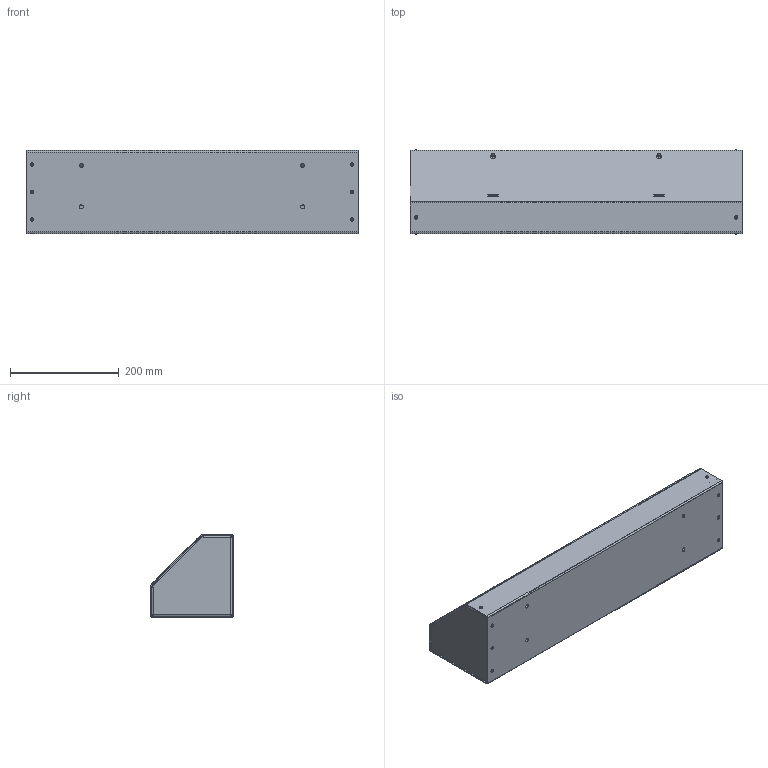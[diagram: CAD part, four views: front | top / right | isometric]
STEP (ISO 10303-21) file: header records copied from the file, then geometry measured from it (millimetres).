
FILE_DESCRIPTION (( 'STEP AP203' ), '1' );
FILE_NAME ('at6624.STEP', '2017-10-03T18:31:57', ( '' ), ( '' ), 'SwSTEP 2.0', 'SolidWorks 2014', '' );
FILE_SCHEMA (( 'CONFIG_CONTROL_DESIGN' ));
Length unit declared in the file: inch
Products named in the file (7): at6624; 89159103; 89159121; 16111002_INSTALLED .144 THICKNESS; 89159146; 89159126; 87780048
Assembly tree (22 placements, depth 3):
  at6624
    89159146
      89159103
      89159121  x2
      16111002_INSTALLED .144 THICKNESS  x16
    89159126
    87780048
Bounding box: 609.6 x 154.23 x 154.23 mm (x, y, z)
Volume: 566671.9 mm3; surface area: 828484.6 mm2
Topology: 21 solids, 21 shells, 724 faces, 1660 edges, 992 vertices
Faces by surface type: cylinder 284, plane 256, cone 96, bspline 80, torus 8
Entity records: 11797 total; most frequent: CARTESIAN_POINT 2260, DIRECTION 1786, ORIENTED_EDGE 1698, EDGE_CURVE 849, AXIS2_PLACEMENT_3D 627, VECTOR 532, LINE 532, VERTEX_POINT 531
